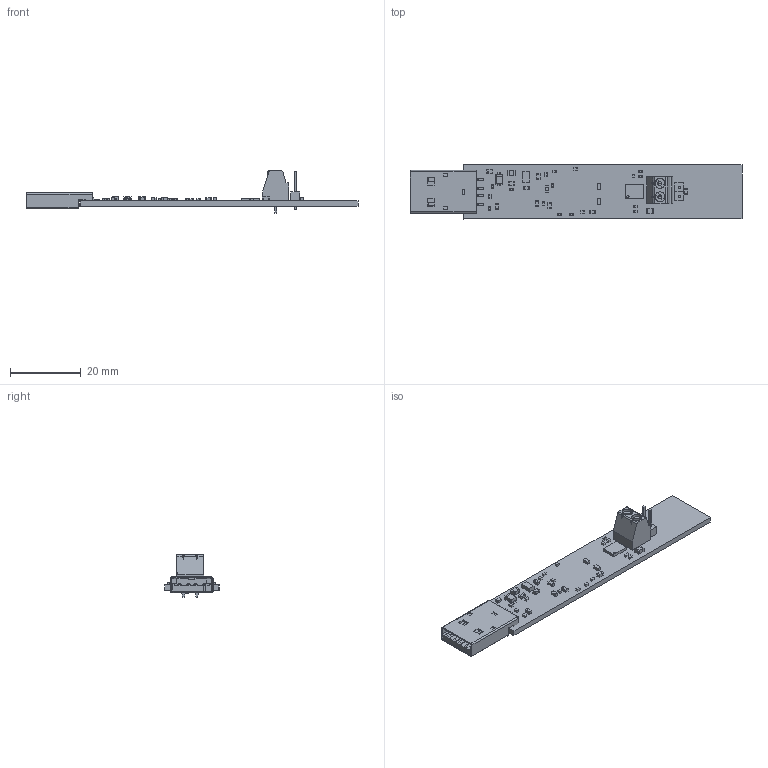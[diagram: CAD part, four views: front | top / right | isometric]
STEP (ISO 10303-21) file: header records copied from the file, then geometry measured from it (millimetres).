
FILE_DESCRIPTION(('Open CASCADE Model'),'2;1');
FILE_NAME('Open CASCADE Shape Model','2013-11-01T16:46:43',('Author'),( 'Open CASCADE'),'Open CASCADE STEP processor 6.2','Open CASCADE 6.2' ,'Unknown');
FILE_SCHEMA(('AUTOMOTIVE_DESIGN { 1 0 10303 214 1 1 1 1 }'));
Length unit declared in the file: millimetre
Products named in the file (78): PCB; Board; C_Tank; 475902304; Extruded; 475902176; D2; 475904352; D1; C1; C2; 475902432; 475902560; C3; 475902944; 475903072; C4; C5; 475902688; 475902816; C6; C7; C8; C9; C10; C11; C12; C13; C14; C15; C16; C17; C18; 475903200; 475903328; C19; J2; 1727010; mkds_1-2-3.81; R1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
Assembly tree (154 placements, depth 4):
  PCB
    Board
    C_Tank
      475902304  x2
        Extruded
      475902176
        Extruded
    D2
      475904352
        Extruded
    D1
      475904352
        Extruded
    C1
      475902304  x2
        Extruded
      475902176
        Extruded
    C2
      475902432  x2
        Extruded
      475902560
        Extruded
    C3
      475902944  x2
        Extruded
      475903072
        Extruded
    C4
      475902432  x2
        Extruded
      475902560
        Extruded
    C5
      475902688  x2
        Extruded
      475902816
        Extruded
    C6
      475902688  x2
        Extruded
      475902816
        Extruded
    C7
      475902304  x2
        Extruded
      475902176
        Extruded
    C8
      475902304  x2
        Extruded
      475902176
        Extruded
    C9
      475902304  x2
        Extruded
      475902176
        Extruded
    C10
      475902304  x2
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Bounding box: 94.02 x 15.37 x 12 mm (x, y, z)
Volume: 3009.1 mm3; surface area: 5411.7 mm2
Topology: 99 solids, 99 shells, 1086 faces, 2557 edges, 1664 vertices
Faces by surface type: plane 953, cylinder 105, cone 12, revolution 8, bspline 8
Entity records: 47324 total; most frequent: CARTESIAN_POINT 12481, DIRECTION 5933, LINE 3717, VECTOR 3717, ORIENTED_EDGE 3210, PCURVE 3210, DEFINITIONAL_REPRESENTATION 3210, EDGE_CURVE 1605
